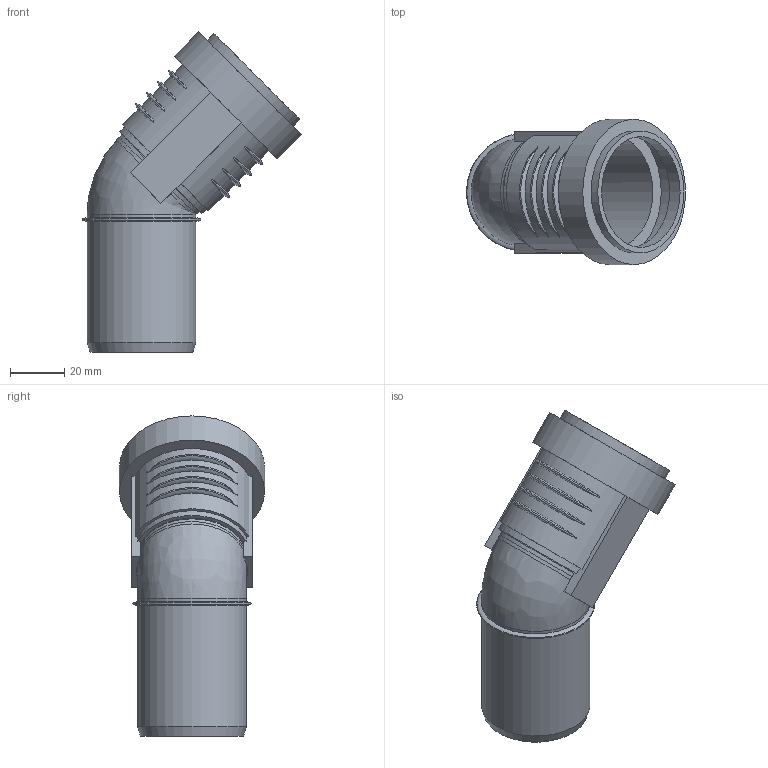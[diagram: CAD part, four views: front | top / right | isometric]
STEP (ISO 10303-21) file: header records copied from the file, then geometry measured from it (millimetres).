
FILE_DESCRIPTION(/* description */ (''),/* implementation_level */ '2;1');
FILE_NAME(/* name */ 'Z:\Geberit\Export\NewStep\390122.stp',/* time_stamp */ '2014-04-02T08:09:00+02:00',/* author */ ('ML'),/* organization */ (''),/* preprocessor_version */ 'ST-DEVELOPER v15.2',/* originating_system */ 'Autodesk Inventor 2014',/* authorisation */ '');
FILE_SCHEMA (('AUTOMOTIVE_DESIGN { 1 0 10303 214 3 1 1 }'));
Length unit declared in the file: millimetre
Products named in the file (3): 861318; 861400; 390122
Bounding box: 80.94 x 53.7 x 118.31 mm (x, y, z)
Volume: 36079.7 mm3; surface area: 36717.1 mm2
Topology: 2 solids, 2 shells, 68 faces, 162 edges, 109 vertices
Faces by surface type: torus 28, plane 19, cylinder 18, cone 2, bspline 1
Full cylindrical faces by diameter (mm): 36.15 x3, 40.15 x4, 41 x2, 45 x1, 49.7 x1, 53.7 x1
Entity records: 2598 total; most frequent: CARTESIAN_POINT 1022, DIRECTION 290, ORIENTED_EDGE 278, EDGE_CURVE 139, AXIS2_PLACEMENT_3D 127, VERTEX_POINT 106, EDGE_LOOP 103, STYLED_ITEM 70
